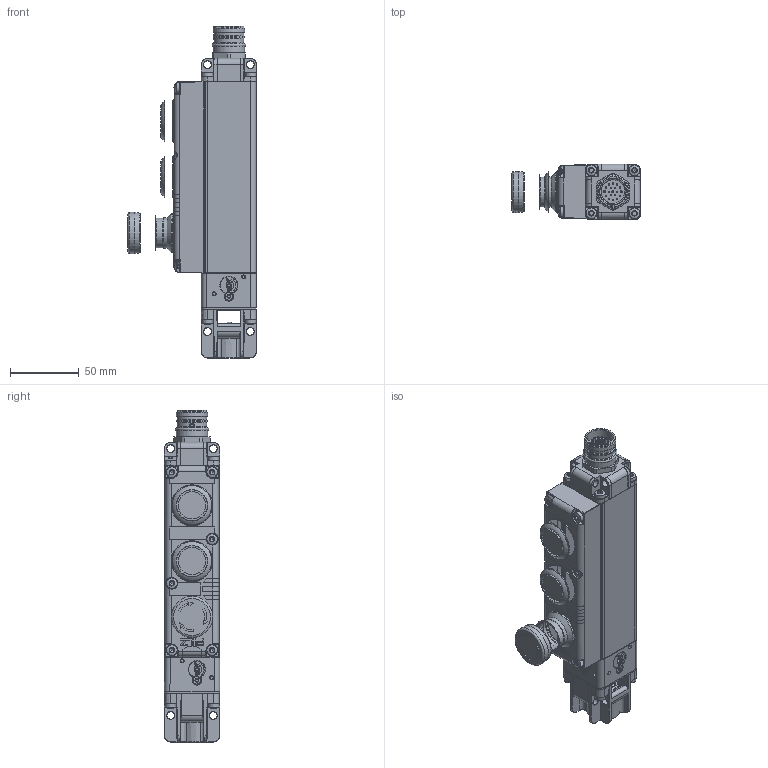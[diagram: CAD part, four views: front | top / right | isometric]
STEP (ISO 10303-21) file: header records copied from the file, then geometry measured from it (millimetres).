
FILE_DESCRIPTION(/* description */ (''),/* implementation_level */ '2;1');
FILE_NAME(/* name */ '2036731_A_PSENmg1-A-xxxxx-Rxxx-Ux.stp',/* time_stamp */ '2024-07-05T14:39:43+02:00',/* author */ ('rvet'),/* organization */ (''),/* preprocessor_version */ 'ST-DEVELOPER v20',/* originating_system */ 'Autodesk Inventor 2024',/* authorisation */ '');
FILE_SCHEMA (('AUTOMOTIVE_DESIGN { 1 0 10303 214 3 1 1 }'));
Products named in the file (1): 2036731
Bounding box: 93.5 x 40 x 240.7 mm (x, y, z)
Volume: 446865.1 mm3; surface area: 65392.1 mm2
Topology: 1 solids, 1 shells, 1955 faces, 4961 edges, 3034 vertices
Faces by surface type: cylinder 658, plane 448, bspline 323, cone 256, torus 190, sphere 80
Full cylindrical faces by diameter (mm): 1 x16, 1.5 x3, 2.693 x3, 3.1 x3, 5.5 x11, 8.2 x2, 9 x1, 10 x1, 12 x1, 12.15 x1, 16.1 x1, 19.85 x2, 20 x1, 21.5 x1, 21.7 x3, 22.2 x1, 22.55 x1, 22.642 x2, 22.8 x4, 28 x1, 28.2 x1, 28.6 x2, 29.2 x2
Entity records: 74590 total; most frequent: CARTESIAN_POINT 29440, ORIENTED_EDGE 9816, DIRECTION 8953, EDGE_CURVE 4908, AXIS2_PLACEMENT_3D 3604, VERTEX_POINT 3034, EDGE_LOOP 2080, FACE_OUTER_BOUND 1955
